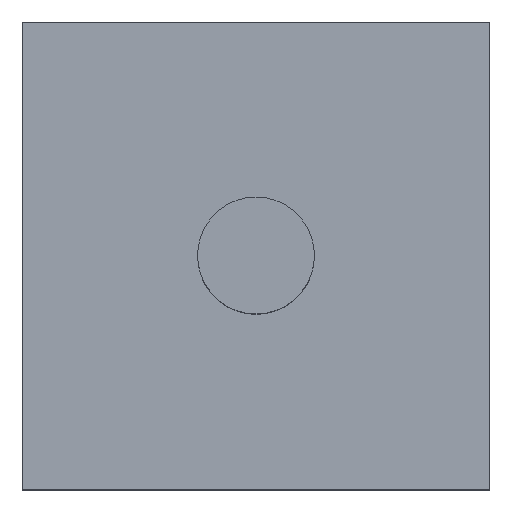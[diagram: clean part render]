
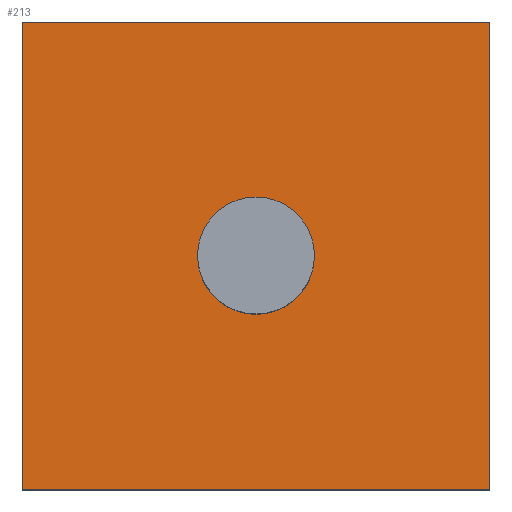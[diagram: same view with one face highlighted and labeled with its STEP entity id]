
A CAD part, top view. The second image highlights one B-rep face of the part: STEP entity #213.
In plain terms, the highlighted planar face has unit normal (0, 0, 1).
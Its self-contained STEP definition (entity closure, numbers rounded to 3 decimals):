
#24 = VERTEX_POINT('',#25);
#25 = CARTESIAN_POINT('',(-6.,-6.,6.));
#32 = PLANE('',#33);
#33 = AXIS2_PLACEMENT_3D('',#34,#35,#36);
#34 = CARTESIAN_POINT('',(-6.,-6.,3.));
#35 = DIRECTION('',(1.,0.,-0.));
#36 = DIRECTION('',(0.,0.,1.));
#44 = PLANE('',#45);
#45 = AXIS2_PLACEMENT_3D('',#46,#47,#48);
#46 = CARTESIAN_POINT('',(-6.,-6.,3.));
#47 = DIRECTION('',(-0.,1.,0.));
#48 = DIRECTION('',(0.,0.,1.));
#85 = VERTEX_POINT('',#86);
#86 = CARTESIAN_POINT('',(-6.,6.,6.));
#100 = PLANE('',#101);
#101 = AXIS2_PLACEMENT_3D('',#102,#103,#104);
#102 = CARTESIAN_POINT('',(-6.,6.,3.));
#103 = DIRECTION('',(-0.,1.,0.));
#104 = DIRECTION('',(0.,0.,1.));
#112 = EDGE_CURVE('',#24,#85,#113,.T.);
#113 = SURFACE_CURVE('',#114,(#118,#125),.PCURVE_S1.);
#114 = LINE('',#115,#116);
#115 = CARTESIAN_POINT('',(-6.,-6.,6.));
#116 = VECTOR('',#117,1.);
#117 = DIRECTION('',(-0.,1.,0.));
#118 = PCURVE('',#32,#119);
#119 = DEFINITIONAL_REPRESENTATION('',(#120),#124);
#120 = LINE('',#121,#122);
#121 = CARTESIAN_POINT('',(3.,0.));
#122 = VECTOR('',#123,1.);
#123 = DIRECTION('',(0.,-1.));
#124 = ( GEOMETRIC_REPRESENTATION_CONTEXT(2) 
PARAMETRIC_REPRESENTATION_CONTEXT() REPRESENTATION_CONTEXT('2D SPACE',''
  ) );
#125 = PCURVE('',#126,#131);
#126 = PLANE('',#127);
#127 = AXIS2_PLACEMENT_3D('',#128,#129,#130);
#128 = CARTESIAN_POINT('',(-6.,-6.,6.));
#129 = DIRECTION('',(0.,0.,1.));
#130 = DIRECTION('',(1.,0.,-0.));
#131 = DEFINITIONAL_REPRESENTATION('',(#132),#136);
#132 = LINE('',#133,#134);
#133 = CARTESIAN_POINT('',(0.,0.));
#134 = VECTOR('',#135,1.);
#135 = DIRECTION('',(0.,1.));
#136 = ( GEOMETRIC_REPRESENTATION_CONTEXT(2) 
PARAMETRIC_REPRESENTATION_CONTEXT() REPRESENTATION_CONTEXT('2D SPACE',''
  ) );
#165 = EDGE_CURVE('',#24,#166,#168,.T.);
#166 = VERTEX_POINT('',#167);
#167 = CARTESIAN_POINT('',(6.,-6.,6.));
#168 = SURFACE_CURVE('',#169,(#173,#180),.PCURVE_S1.);
#169 = LINE('',#170,#171);
#170 = CARTESIAN_POINT('',(-6.,-6.,6.));
#171 = VECTOR('',#172,1.);
#172 = DIRECTION('',(1.,0.,-0.));
#173 = PCURVE('',#44,#174);
#174 = DEFINITIONAL_REPRESENTATION('',(#175),#179);
#175 = LINE('',#176,#177);
#176 = CARTESIAN_POINT('',(3.,0.));
#177 = VECTOR('',#178,1.);
#178 = DIRECTION('',(0.,1.));
#179 = ( GEOMETRIC_REPRESENTATION_CONTEXT(2) 
PARAMETRIC_REPRESENTATION_CONTEXT() REPRESENTATION_CONTEXT('2D SPACE',''
  ) );
#180 = PCURVE('',#126,#181);
#181 = DEFINITIONAL_REPRESENTATION('',(#182),#186);
#182 = LINE('',#183,#184);
#183 = CARTESIAN_POINT('',(0.,0.));
#184 = VECTOR('',#185,1.);
#185 = DIRECTION('',(1.,0.));
#186 = ( GEOMETRIC_REPRESENTATION_CONTEXT(2) 
PARAMETRIC_REPRESENTATION_CONTEXT() REPRESENTATION_CONTEXT('2D SPACE',''
  ) );
#202 = PLANE('',#203);
#203 = AXIS2_PLACEMENT_3D('',#204,#205,#206);
#204 = CARTESIAN_POINT('',(6.,-6.,3.));
#205 = DIRECTION('',(1.,0.,-0.));
#206 = DIRECTION('',(0.,0.,1.));
#213 = ADVANCED_FACE('',(#214,#262),#126,.T.);
#214 = FACE_BOUND('',#215,.T.);
#215 = EDGE_LOOP('',(#216,#217,#218,#241));
#216 = ORIENTED_EDGE('',*,*,#112,.F.);
#217 = ORIENTED_EDGE('',*,*,#165,.T.);
#218 = ORIENTED_EDGE('',*,*,#219,.T.);
#219 = EDGE_CURVE('',#166,#220,#222,.T.);
#220 = VERTEX_POINT('',#221);
#221 = CARTESIAN_POINT('',(6.,6.,6.));
#222 = SURFACE_CURVE('',#223,(#227,#234),.PCURVE_S1.);
#223 = LINE('',#224,#225);
#224 = CARTESIAN_POINT('',(6.,-6.,6.));
#225 = VECTOR('',#226,1.);
#226 = DIRECTION('',(-0.,1.,0.));
#227 = PCURVE('',#126,#228);
#228 = DEFINITIONAL_REPRESENTATION('',(#229),#233);
#229 = LINE('',#230,#231);
#230 = CARTESIAN_POINT('',(12.,0.));
#231 = VECTOR('',#232,1.);
#232 = DIRECTION('',(0.,1.));
#233 = ( GEOMETRIC_REPRESENTATION_CONTEXT(2) 
PARAMETRIC_REPRESENTATION_CONTEXT() REPRESENTATION_CONTEXT('2D SPACE',''
  ) );
#234 = PCURVE('',#202,#235);
#235 = DEFINITIONAL_REPRESENTATION('',(#236),#240);
#236 = LINE('',#237,#238);
#237 = CARTESIAN_POINT('',(3.,0.));
#238 = VECTOR('',#239,1.);
#239 = DIRECTION('',(0.,-1.));
#240 = ( GEOMETRIC_REPRESENTATION_CONTEXT(2) 
PARAMETRIC_REPRESENTATION_CONTEXT() REPRESENTATION_CONTEXT('2D SPACE',''
  ) );
#241 = ORIENTED_EDGE('',*,*,#242,.F.);
#242 = EDGE_CURVE('',#85,#220,#243,.T.);
#243 = SURFACE_CURVE('',#244,(#248,#255),.PCURVE_S1.);
#244 = LINE('',#245,#246);
#245 = CARTESIAN_POINT('',(-6.,6.,6.));
#246 = VECTOR('',#247,1.);
#247 = DIRECTION('',(1.,0.,-0.));
#248 = PCURVE('',#126,#249);
#249 = DEFINITIONAL_REPRESENTATION('',(#250),#254);
#250 = LINE('',#251,#252);
#251 = CARTESIAN_POINT('',(0.,12.));
#252 = VECTOR('',#253,1.);
#253 = DIRECTION('',(1.,0.));
#254 = ( GEOMETRIC_REPRESENTATION_CONTEXT(2) 
PARAMETRIC_REPRESENTATION_CONTEXT() REPRESENTATION_CONTEXT('2D SPACE',''
  ) );
#255 = PCURVE('',#100,#256);
#256 = DEFINITIONAL_REPRESENTATION('',(#257),#261);
#257 = LINE('',#258,#259);
#258 = CARTESIAN_POINT('',(3.,0.));
#259 = VECTOR('',#260,1.);
#260 = DIRECTION('',(0.,1.));
#261 = ( GEOMETRIC_REPRESENTATION_CONTEXT(2) 
PARAMETRIC_REPRESENTATION_CONTEXT() REPRESENTATION_CONTEXT('2D SPACE',''
  ) );
#262 = FACE_BOUND('',#263,.T.);
#263 = EDGE_LOOP('',(#264));
#264 = ORIENTED_EDGE('',*,*,#265,.F.);
#265 = EDGE_CURVE('',#266,#266,#268,.T.);
#266 = VERTEX_POINT('',#267);
#267 = CARTESIAN_POINT('',(1.5,0.,6.));
#268 = SURFACE_CURVE('',#269,(#274,#281),.PCURVE_S1.);
#269 = CIRCLE('',#270,1.5);
#270 = AXIS2_PLACEMENT_3D('',#271,#272,#273);
#271 = CARTESIAN_POINT('',(0.,0.,6.));
#272 = DIRECTION('',(0.,0.,1.));
#273 = DIRECTION('',(1.,0.,-0.));
#274 = PCURVE('',#126,#275);
#275 = DEFINITIONAL_REPRESENTATION('',(#276),#280);
#276 = CIRCLE('',#277,1.5);
#277 = AXIS2_PLACEMENT_2D('',#278,#279);
#278 = CARTESIAN_POINT('',(6.,6.));
#279 = DIRECTION('',(1.,0.));
#280 = ( GEOMETRIC_REPRESENTATION_CONTEXT(2) 
PARAMETRIC_REPRESENTATION_CONTEXT() REPRESENTATION_CONTEXT('2D SPACE',''
  ) );
#281 = PCURVE('',#282,#287);
#282 = CYLINDRICAL_SURFACE('',#283,1.5);
#283 = AXIS2_PLACEMENT_3D('',#284,#285,#286);
#284 = CARTESIAN_POINT('',(0.,0.,6.));
#285 = DIRECTION('',(0.,0.,1.));
#286 = DIRECTION('',(1.,0.,-0.));
#287 = DEFINITIONAL_REPRESENTATION('',(#288),#292);
#288 = LINE('',#289,#290);
#289 = CARTESIAN_POINT('',(0.,0.));
#290 = VECTOR('',#291,1.);
#291 = DIRECTION('',(1.,0.));
#292 = ( GEOMETRIC_REPRESENTATION_CONTEXT(2) 
PARAMETRIC_REPRESENTATION_CONTEXT() REPRESENTATION_CONTEXT('2D SPACE',''
  ) );
